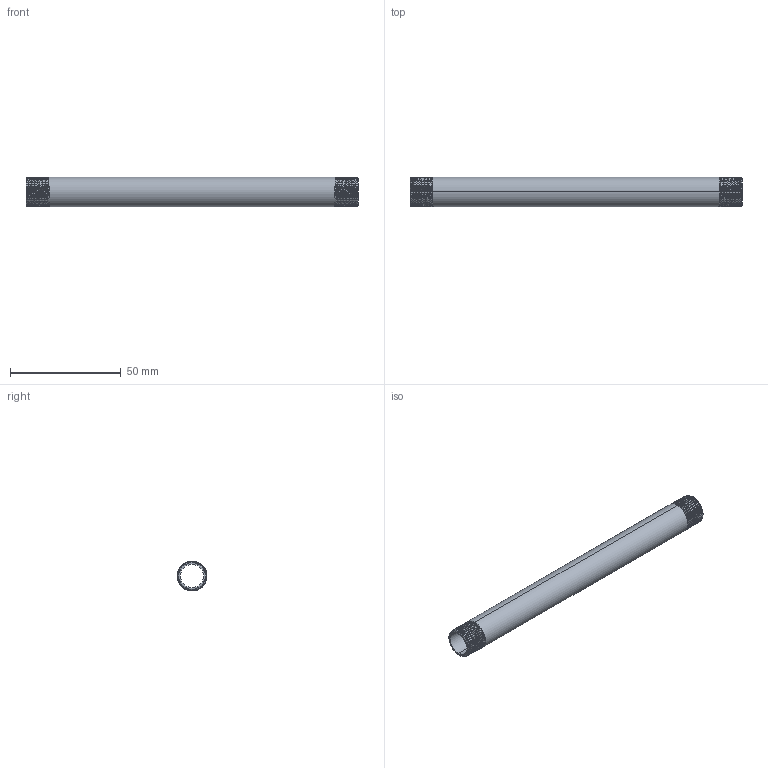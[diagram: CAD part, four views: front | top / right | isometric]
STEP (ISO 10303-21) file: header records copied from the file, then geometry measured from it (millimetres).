
FILE_DESCRIPTION (( 'STEP AP203' ), '1' );
FILE_NAME ('3D_R210_1-4x150_17185410.STEP', '2024-08-16T10:46:54', ( '' ), ( '' ), 'SwSTEP 2.0', 'SolidWorks 2024', '' );
FILE_SCHEMA (( 'CONFIG_CONTROL_DESIGN' ));
Length unit declared in the file: millimetre
Products named in the file (1): 3D_R210_1-4x150_17185410
Bounding box: 150 x 13.5 x 13.5 mm (x, y, z)
Volume: 8307.7 mm3; surface area: 11750.8 mm2
Topology: 1 solids, 1 shells, 76 faces, 216 edges, 142 vertices
Faces by surface type: cone 62, bspline 6, cylinder 4, plane 4
Entity records: 10859 total; most frequent: CARTESIAN_POINT 9099, ORIENTED_EDGE 432, DIRECTION 230, EDGE_CURVE 216, VERTEX_POINT 142, B_SPLINE_CURVE_WITH_KNOTS 130, AXIS2_PLACEMENT_3D 81, EDGE_LOOP 78
